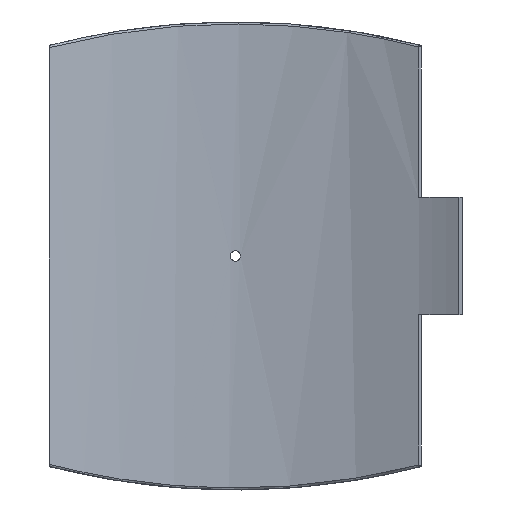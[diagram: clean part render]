
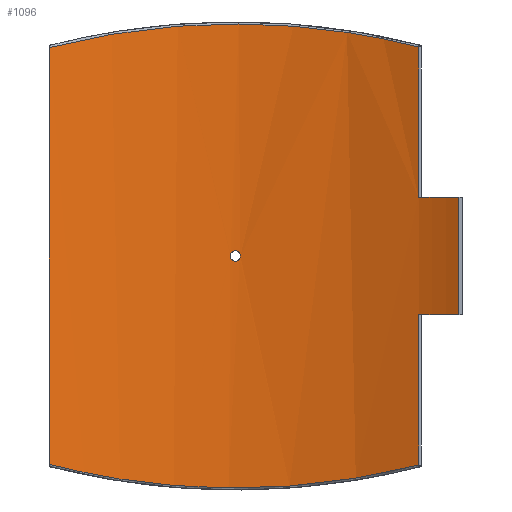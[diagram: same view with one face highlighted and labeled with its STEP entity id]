
A CAD part, front view. The second image highlights one B-rep face of the part: STEP entity #1096.
In plain terms, the highlighted cylindrical face has radius 450 mm (diameter 900 mm), a partial arc.
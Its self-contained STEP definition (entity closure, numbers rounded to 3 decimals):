
#55=FACE_BOUND('',#359,.T.);
#109=B_SPLINE_CURVE_WITH_KNOTS('',3,(#2235,#2236,#2237,#2238,#2239,#2240,
#2241,#2242,#2243),.UNSPECIFIED.,.F.,.F.,(4,1,1,1,1,1,4),(-43.723,
-32.653,-27.119,-21.584,-18.816,
-10.514,-4.979),.UNSPECIFIED.);
#110=B_SPLINE_CURVE_WITH_KNOTS('',3,(#2252,#2253,#2254,#2255,#2256,#2257,
#2258,#2259,#2260),.UNSPECIFIED.,.F.,.F.,(4,1,1,1,1,1,4),(-39.893,
-34.358,-28.823,-23.288,-17.753,
-12.218,-1.148),.UNSPECIFIED.);
#111=B_SPLINE_CURVE_WITH_KNOTS('',3,(#2263,#2264,#2265,#2266,#2267,#2268,
#2269,#2270,#2271,#2272),.UNSPECIFIED.,.F.,.F.,(4,2,2,2,4),(0.,0.196,
0.392,0.588,0.784),.UNSPECIFIED.);
#112=B_SPLINE_CURVE_WITH_KNOTS('',3,(#2273,#2274,#2275,#2276,#2277,#2278,
#2279,#2280,#2281,#2282,#2283,#2284,#2285,#2286,#2287,#2288,#2289,#2290,
#2291,#2292,#2293,#2294,#2295,#2296,#2297,#2298),.UNSPECIFIED.,.F.,.F.,
(4,2,2,2,2,2,2,2,2,2,2,2,4),(0.784,0.979,1.175,
1.371,1.567,1.763,1.959,2.155,
2.351,2.546,2.742,2.938,3.134),
 .UNSPECIFIED.);
#133=LINE('',#1644,#185);
#144=LINE('',#1931,#196);
#151=LINE('',#2248,#203);
#152=LINE('',#2251,#204);
#185=VECTOR('',#1314,10.);
#196=VECTOR('',#1353,10.);
#203=VECTOR('',#1390,10.);
#204=VECTOR('',#1393,10.);
#246=CYLINDRICAL_SURFACE('',#1194,450.);
#291=FACE_OUTER_BOUND('',#358,.T.);
#358=EDGE_LOOP('',(#851,#852,#853,#854,#855,#856,#857,#858));
#359=EDGE_LOOP('',(#859,#860));
#454=CIRCLE('',#1195,450.);
#455=CIRCLE('',#1196,450.);
#517=VERTEX_POINT('',#1635);
#520=VERTEX_POINT('',#1642);
#540=VERTEX_POINT('',#1924);
#543=VERTEX_POINT('',#1929);
#556=VERTEX_POINT('',#2221);
#557=VERTEX_POINT('',#2245);
#558=VERTEX_POINT('',#2247);
#559=VERTEX_POINT('',#2250);
#560=VERTEX_POINT('',#2261);
#561=VERTEX_POINT('',#2262);
#622=EDGE_CURVE('',#520,#517,#133,.T.);
#652=EDGE_CURVE('',#543,#540,#144,.T.);
#675=EDGE_CURVE('',#556,#543,#109,.T.);
#676=EDGE_CURVE('',#557,#520,#454,.T.);
#677=EDGE_CURVE('',#557,#558,#151,.T.);
#678=EDGE_CURVE('',#540,#558,#455,.T.);
#679=EDGE_CURVE('',#559,#556,#152,.T.);
#680=EDGE_CURVE('',#517,#559,#110,.T.);
#681=EDGE_CURVE('',#560,#561,#111,.T.);
#682=EDGE_CURVE('',#561,#560,#112,.T.);
#851=ORIENTED_EDGE('',*,*,#676,.F.);
#852=ORIENTED_EDGE('',*,*,#677,.T.);
#853=ORIENTED_EDGE('',*,*,#678,.F.);
#854=ORIENTED_EDGE('',*,*,#652,.F.);
#855=ORIENTED_EDGE('',*,*,#675,.F.);
#856=ORIENTED_EDGE('',*,*,#679,.F.);
#857=ORIENTED_EDGE('',*,*,#680,.F.);
#858=ORIENTED_EDGE('',*,*,#622,.F.);
#859=ORIENTED_EDGE('',*,*,#681,.T.);
#860=ORIENTED_EDGE('',*,*,#682,.T.);
#1096=ADVANCED_FACE('',(#291,#55),#246,.F.);
#1194=AXIS2_PLACEMENT_3D('',#2244,#1386,#1387);
#1195=AXIS2_PLACEMENT_3D('',#2246,#1388,#1389);
#1196=AXIS2_PLACEMENT_3D('',#2249,#1391,#1392);
#1314=DIRECTION('',(0.,0.,-1.));
#1353=DIRECTION('',(0.,0.,-1.));
#1386=DIRECTION('center_axis',(0.,0.,1.));
#1387=DIRECTION('ref_axis',(-1.,0.,0.));
#1388=DIRECTION('center_axis',(0.,0.,1.));
#1389=DIRECTION('ref_axis',(-0.498,-0.867,0.));
#1390=DIRECTION('',(0.,0.,1.));
#1391=DIRECTION('center_axis',(0.,0.,-1.));
#1392=DIRECTION('ref_axis',(-0.498,-0.867,0.));
#1393=DIRECTION('',(0.,0.,1.));
#1635=CARTESIAN_POINT('',(183.933,410.693,-209.945));
#1642=CARTESIAN_POINT('',(183.933,410.693,-58.75));
#1644=CARTESIAN_POINT('',(183.933,410.693,0.));
#1924=CARTESIAN_POINT('',(183.933,410.693,58.75));
#1929=CARTESIAN_POINT('',(183.933,410.693,209.945));
#1931=CARTESIAN_POINT('',(183.933,410.693,0.));
#2221=CARTESIAN_POINT('',(-186.75,409.42,209.222));
#2235=CARTESIAN_POINT('Ctrl Pts',(-186.75,409.42,209.222));
#2236=CARTESIAN_POINT('Ctrl Pts',(-154.213,424.261,217.643));
#2237=CARTESIAN_POINT('Ctrl Pts',(-102.107,440.946,227.547));
#2238=CARTESIAN_POINT('Ctrl Pts',(-29.204,450.178,233.105));
#2239=CARTESIAN_POINT('Ctrl Pts',(16.82,450.342,233.206));
#2240=CARTESIAN_POINT('Ctrl Pts',(71.682,445.487,230.28));
#2241=CARTESIAN_POINT('Ctrl Pts',(125.437,433.971,223.371));
#2242=CARTESIAN_POINT('Ctrl Pts',(167.599,418.008,214.105));
#2243=CARTESIAN_POINT('Ctrl Pts',(183.933,410.693,209.945));
#2244=CARTESIAN_POINT('Origin',(0.,0.,0.));
#2245=CARTESIAN_POINT('',(224.281,390.126,-58.75));
#2246=CARTESIAN_POINT('Origin',(0.,0.,
-58.75));
#2247=CARTESIAN_POINT('',(224.281,390.126,58.75));
#2248=CARTESIAN_POINT('',(224.281,390.126,0.));
#2249=CARTESIAN_POINT('Origin',(0.,0.,
58.75));
#2250=CARTESIAN_POINT('',(-186.75,409.42,-209.222));
#2251=CARTESIAN_POINT('',(-186.75,409.42,0.));
#2252=CARTESIAN_POINT('Ctrl Pts',(183.933,410.693,-209.945));
#2253=CARTESIAN_POINT('Ctrl Pts',(167.599,418.008,-214.105));
#2254=CARTESIAN_POINT('Ctrl Pts',(133.865,430.774,-221.512));
#2255=CARTESIAN_POINT('Ctrl Pts',(80.755,443.829,-229.276));
#2256=CARTESIAN_POINT('Ctrl Pts',(26.029,450.376,-233.228));
#2257=CARTESIAN_POINT('Ctrl Pts',(-29.205,450.178,-233.104));
#2258=CARTESIAN_POINT('Ctrl Pts',(-102.105,440.946,-227.547));
#2259=CARTESIAN_POINT('Ctrl Pts',(-154.213,424.261,-217.643));
#2260=CARTESIAN_POINT('Ctrl Pts',(-186.75,409.42,-209.222));
#2261=CARTESIAN_POINT('',(5.2,449.97,0.));
#2262=CARTESIAN_POINT('',(0.,450.,-5.2));
#2263=CARTESIAN_POINT('Ctrl Pts',(5.2,449.97,0.));
#2264=CARTESIAN_POINT('Ctrl Pts',(5.2,449.97,-0.653));
#2265=CARTESIAN_POINT('Ctrl Pts',(5.07,449.972,-1.349));
#2266=CARTESIAN_POINT('Ctrl Pts',(4.539,449.977,-2.631));
#2267=CARTESIAN_POINT('Ctrl Pts',(4.139,449.981,-3.215));
#2268=CARTESIAN_POINT('Ctrl Pts',(3.215,449.989,-4.139));
#2269=CARTESIAN_POINT('Ctrl Pts',(2.631,449.993,-4.539));
#2270=CARTESIAN_POINT('Ctrl Pts',(1.349,449.998,-5.07));
#2271=CARTESIAN_POINT('Ctrl Pts',(0.653,450.,-5.2));
#2272=CARTESIAN_POINT('Ctrl Pts',(0.,450.,-5.2));
#2273=CARTESIAN_POINT('Ctrl Pts',(0.,450.,-5.2));
#2274=CARTESIAN_POINT('Ctrl Pts',(-0.653,450.,-5.2));
#2275=CARTESIAN_POINT('Ctrl Pts',(-1.349,449.998,-5.07));
#2276=CARTESIAN_POINT('Ctrl Pts',(-2.631,449.993,-4.539));
#2277=CARTESIAN_POINT('Ctrl Pts',(-3.215,449.989,-4.139));
#2278=CARTESIAN_POINT('Ctrl Pts',(-4.139,449.981,-3.215));
#2279=CARTESIAN_POINT('Ctrl Pts',(-4.539,449.977,-2.631));
#2280=CARTESIAN_POINT('Ctrl Pts',(-5.07,449.972,-1.349));
#2281=CARTESIAN_POINT('Ctrl Pts',(-5.2,449.97,-0.653));
#2282=CARTESIAN_POINT('Ctrl Pts',(-5.2,449.97,0.653));
#2283=CARTESIAN_POINT('Ctrl Pts',(-5.07,449.972,1.349));
#2284=CARTESIAN_POINT('Ctrl Pts',(-4.539,449.977,2.631));
#2285=CARTESIAN_POINT('Ctrl Pts',(-4.139,449.981,3.215));
#2286=CARTESIAN_POINT('Ctrl Pts',(-3.215,449.989,4.139));
#2287=CARTESIAN_POINT('Ctrl Pts',(-2.631,449.993,4.539));
#2288=CARTESIAN_POINT('Ctrl Pts',(-1.349,449.998,5.07));
#2289=CARTESIAN_POINT('Ctrl Pts',(-0.653,450.,5.2));
#2290=CARTESIAN_POINT('Ctrl Pts',(0.653,450.,5.2));
#2291=CARTESIAN_POINT('Ctrl Pts',(1.349,449.998,5.07));
#2292=CARTESIAN_POINT('Ctrl Pts',(2.631,449.993,4.539));
#2293=CARTESIAN_POINT('Ctrl Pts',(3.215,449.989,4.139));
#2294=CARTESIAN_POINT('Ctrl Pts',(4.139,449.981,3.215));
#2295=CARTESIAN_POINT('Ctrl Pts',(4.539,449.977,2.631));
#2296=CARTESIAN_POINT('Ctrl Pts',(5.07,449.972,1.349));
#2297=CARTESIAN_POINT('Ctrl Pts',(5.2,449.97,0.653));
#2298=CARTESIAN_POINT('Ctrl Pts',(5.2,449.97,0.));
